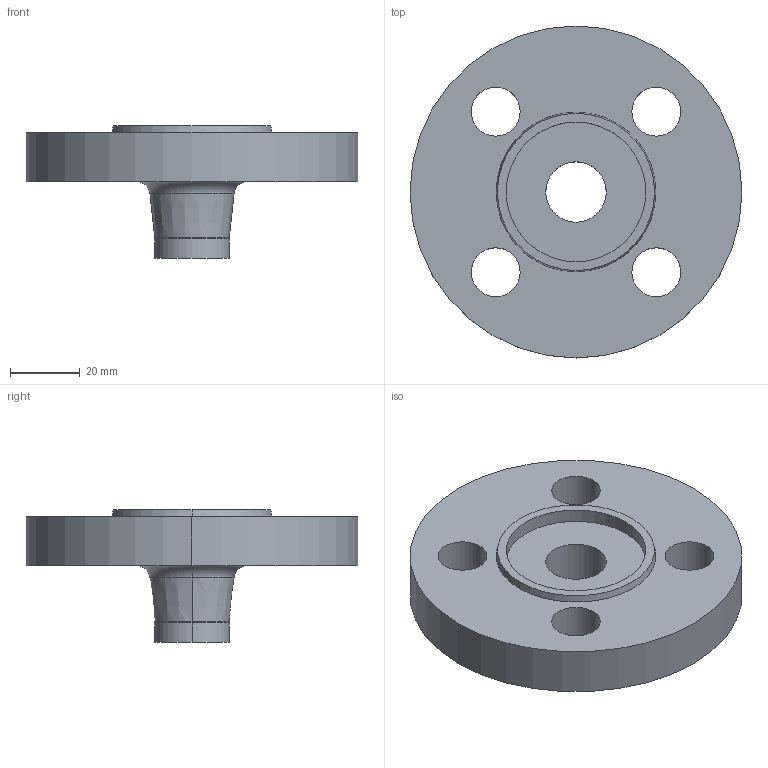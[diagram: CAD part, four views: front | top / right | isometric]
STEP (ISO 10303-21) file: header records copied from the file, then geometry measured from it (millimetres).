
FILE_DESCRIPTION (( 'STEP AP214' ), '1' );
FILE_NAME ('PN40 DN15 Type 11 - Type F Face.STEP', '2018-12-29T15:03:06', ( '' ), ( '' ), 'SwSTEP 2.0', 'SolidWorks 2019', '' );
FILE_SCHEMA (( 'AUTOMOTIVE_DESIGN' ));
Length unit declared in the file: millimetre
Products named in the file (1): PN40 DN15 Type 11 - Type F Face
Bounding box: 95 x 95 x 38 mm (x, y, z)
Volume: 89892.9 mm3; surface area: 23049.6 mm2
Topology: 1 solids, 1 shells, 29 faces, 66 edges, 42 vertices
Faces by surface type: cylinder 16, plane 5, torus 4, cone 4
Entity records: 892 total; most frequent: DIRECTION 172, CARTESIAN_POINT 138, ORIENTED_EDGE 132, AXIS2_PLACEMENT_3D 76, EDGE_CURVE 66, CIRCLE 46, VERTEX_POINT 42, EDGE_LOOP 42
